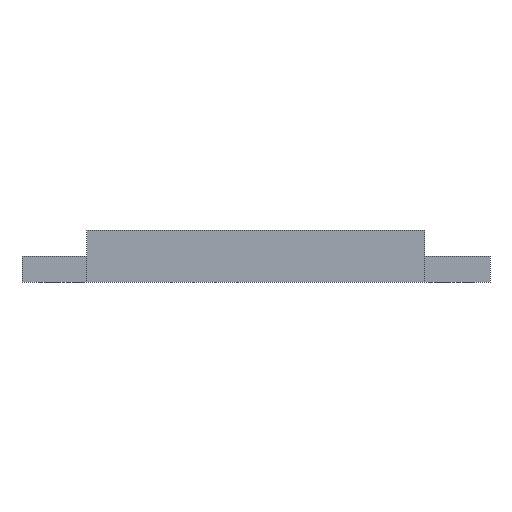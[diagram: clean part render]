
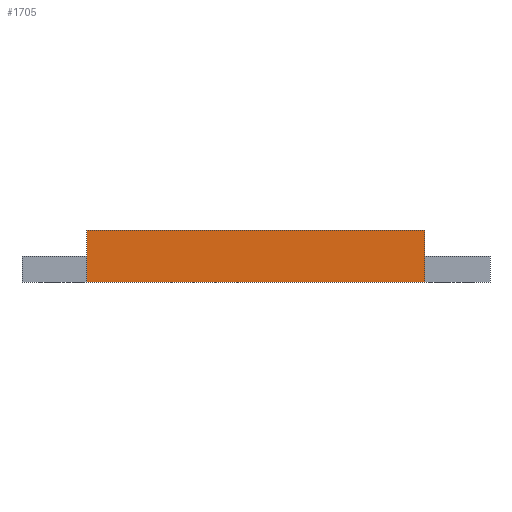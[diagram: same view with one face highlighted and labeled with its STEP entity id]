
A CAD part, front view. The second image highlights one B-rep face of the part: STEP entity #1705.
In plain terms, the highlighted planar face has unit normal (0, -1, 0).
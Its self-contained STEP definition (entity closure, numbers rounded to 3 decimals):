
#22 = VERTEX_POINT('',#23);
#23 = CARTESIAN_POINT('',(-35.,50.,10.));
#32 = PLANE('',#33);
#33 = AXIS2_PLACEMENT_3D('',#34,#35,#36);
#34 = CARTESIAN_POINT('',(-35.,50.,6.));
#35 = DIRECTION('',(1.,0.,0.));
#36 = DIRECTION('',(0.,0.,1.));
#44 = PLANE('',#45);
#45 = AXIS2_PLACEMENT_3D('',#46,#47,#48);
#46 = CARTESIAN_POINT('',(-35.,50.,10.));
#47 = DIRECTION('',(0.,0.,1.));
#48 = DIRECTION('',(1.,0.,0.));
#56 = EDGE_CURVE('',#57,#22,#59,.T.);
#57 = VERTEX_POINT('',#58);
#58 = CARTESIAN_POINT('',(-35.,50.,6.));
#59 = SURFACE_CURVE('',#60,(#64,#71),.PCURVE_S1.);
#60 = LINE('',#61,#62);
#61 = CARTESIAN_POINT('',(-35.,50.,6.));
#62 = VECTOR('',#63,1.);
#63 = DIRECTION('',(0.,0.,1.));
#64 = PCURVE('',#32,#65);
#65 = DEFINITIONAL_REPRESENTATION('',(#66),#70);
#66 = LINE('',#67,#68);
#67 = CARTESIAN_POINT('',(0.,0.));
#68 = VECTOR('',#69,1.);
#69 = DIRECTION('',(1.,0.));
#70 = ( GEOMETRIC_REPRESENTATION_CONTEXT(2) 
PARAMETRIC_REPRESENTATION_CONTEXT() REPRESENTATION_CONTEXT('2D SPACE',''
  ) );
#71 = PCURVE('',#72,#77);
#72 = PLANE('',#73);
#73 = AXIS2_PLACEMENT_3D('',#74,#75,#76);
#74 = CARTESIAN_POINT('',(-35.,50.,6.));
#75 = DIRECTION('',(0.,1.,0.));
#76 = DIRECTION('',(0.,0.,1.));
#77 = DEFINITIONAL_REPRESENTATION('',(#78),#82);
#78 = LINE('',#79,#80);
#79 = CARTESIAN_POINT('',(0.,0.));
#80 = VECTOR('',#81,1.);
#81 = DIRECTION('',(1.,0.));
#82 = ( GEOMETRIC_REPRESENTATION_CONTEXT(2) 
PARAMETRIC_REPRESENTATION_CONTEXT() REPRESENTATION_CONTEXT('2D SPACE',''
  ) );
#100 = PLANE('',#101);
#101 = AXIS2_PLACEMENT_3D('',#102,#103,#104);
#102 = CARTESIAN_POINT('',(-35.,50.,6.));
#103 = DIRECTION('',(0.,0.,1.));
#104 = DIRECTION('',(1.,0.,0.));
#193 = EDGE_CURVE('',#22,#194,#196,.T.);
#194 = VERTEX_POINT('',#195);
#195 = CARTESIAN_POINT('',(-9.,50.,10.));
#196 = SURFACE_CURVE('',#197,(#201,#208),.PCURVE_S1.);
#197 = LINE('',#198,#199);
#198 = CARTESIAN_POINT('',(-35.,50.,10.));
#199 = VECTOR('',#200,1.);
#200 = DIRECTION('',(1.,0.,0.));
#201 = PCURVE('',#44,#202);
#202 = DEFINITIONAL_REPRESENTATION('',(#203),#207);
#203 = LINE('',#204,#205);
#204 = CARTESIAN_POINT('',(0.,0.));
#205 = VECTOR('',#206,1.);
#206 = DIRECTION('',(1.,0.));
#207 = ( GEOMETRIC_REPRESENTATION_CONTEXT(2) 
PARAMETRIC_REPRESENTATION_CONTEXT() REPRESENTATION_CONTEXT('2D SPACE',''
  ) );
#208 = PCURVE('',#72,#209);
#209 = DEFINITIONAL_REPRESENTATION('',(#210),#214);
#210 = LINE('',#211,#212);
#211 = CARTESIAN_POINT('',(4.,0.));
#212 = VECTOR('',#213,1.);
#213 = DIRECTION('',(0.,1.));
#214 = ( GEOMETRIC_REPRESENTATION_CONTEXT(2) 
PARAMETRIC_REPRESENTATION_CONTEXT() REPRESENTATION_CONTEXT('2D SPACE',''
  ) );
#232 = PLANE('',#233);
#233 = AXIS2_PLACEMENT_3D('',#234,#235,#236);
#234 = CARTESIAN_POINT('',(-9.,50.,6.));
#235 = DIRECTION('',(1.,0.,0.));
#236 = DIRECTION('',(0.,0.,1.));
#1240 = EDGE_CURVE('',#57,#1241,#1243,.T.);
#1241 = VERTEX_POINT('',#1242);
#1242 = CARTESIAN_POINT('',(-9.,50.,6.));
#1243 = SURFACE_CURVE('',#1244,(#1248,#1255),.PCURVE_S1.);
#1244 = LINE('',#1245,#1246);
#1245 = CARTESIAN_POINT('',(-35.,50.,6.));
#1246 = VECTOR('',#1247,1.);
#1247 = DIRECTION('',(1.,0.,0.));
#1248 = PCURVE('',#100,#1249);
#1249 = DEFINITIONAL_REPRESENTATION('',(#1250),#1254);
#1250 = LINE('',#1251,#1252);
#1251 = CARTESIAN_POINT('',(0.,0.));
#1252 = VECTOR('',#1253,1.);
#1253 = DIRECTION('',(1.,0.));
#1254 = ( GEOMETRIC_REPRESENTATION_CONTEXT(2) 
PARAMETRIC_REPRESENTATION_CONTEXT() REPRESENTATION_CONTEXT('2D SPACE',''
  ) );
#1255 = PCURVE('',#72,#1256);
#1256 = DEFINITIONAL_REPRESENTATION('',(#1257),#1261);
#1257 = LINE('',#1258,#1259);
#1258 = CARTESIAN_POINT('',(0.,0.));
#1259 = VECTOR('',#1260,1.);
#1260 = DIRECTION('',(0.,1.));
#1261 = ( GEOMETRIC_REPRESENTATION_CONTEXT(2) 
PARAMETRIC_REPRESENTATION_CONTEXT() REPRESENTATION_CONTEXT('2D SPACE',''
  ) );
#1705 = ADVANCED_FACE('',(#1706),#72,.F.);
#1706 = FACE_BOUND('',#1707,.F.);
#1707 = EDGE_LOOP('',(#1708,#1709,#1710,#1711));
#1708 = ORIENTED_EDGE('',*,*,#1240,.F.);
#1709 = ORIENTED_EDGE('',*,*,#56,.T.);
#1710 = ORIENTED_EDGE('',*,*,#193,.T.);
#1711 = ORIENTED_EDGE('',*,*,#1712,.F.);
#1712 = EDGE_CURVE('',#1241,#194,#1713,.T.);
#1713 = SURFACE_CURVE('',#1714,(#1718,#1725),.PCURVE_S1.);
#1714 = LINE('',#1715,#1716);
#1715 = CARTESIAN_POINT('',(-9.,50.,6.));
#1716 = VECTOR('',#1717,1.);
#1717 = DIRECTION('',(0.,0.,1.));
#1718 = PCURVE('',#72,#1719);
#1719 = DEFINITIONAL_REPRESENTATION('',(#1720),#1724);
#1720 = LINE('',#1721,#1722);
#1721 = CARTESIAN_POINT('',(0.,26.));
#1722 = VECTOR('',#1723,1.);
#1723 = DIRECTION('',(1.,0.));
#1724 = ( GEOMETRIC_REPRESENTATION_CONTEXT(2) 
PARAMETRIC_REPRESENTATION_CONTEXT() REPRESENTATION_CONTEXT('2D SPACE',''
  ) );
#1725 = PCURVE('',#232,#1726);
#1726 = DEFINITIONAL_REPRESENTATION('',(#1727),#1731);
#1727 = LINE('',#1728,#1729);
#1728 = CARTESIAN_POINT('',(0.,0.));
#1729 = VECTOR('',#1730,1.);
#1730 = DIRECTION('',(1.,0.));
#1731 = ( GEOMETRIC_REPRESENTATION_CONTEXT(2) 
PARAMETRIC_REPRESENTATION_CONTEXT() REPRESENTATION_CONTEXT('2D SPACE',''
  ) );
